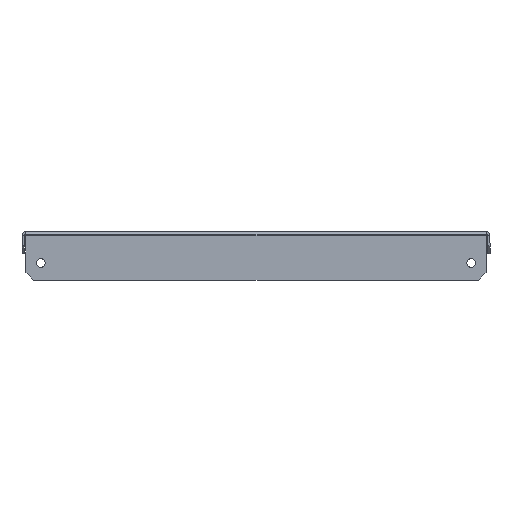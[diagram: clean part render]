
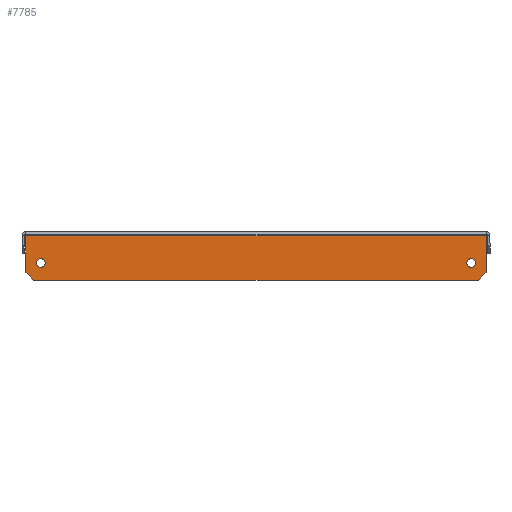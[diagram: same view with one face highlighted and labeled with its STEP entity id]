
A CAD part, left-side view. The second image highlights one B-rep face of the part: STEP entity #7785.
In plain terms, the highlighted planar face has unit normal (-1, 0, 0).
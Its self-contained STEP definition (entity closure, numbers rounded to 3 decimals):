
#72 = LINE ( 'NONE', #20910, #7131 ) ;
#83 = CARTESIAN_POINT ( 'NONE',  ( -348.5, 86.5, -86.5 ) ) ;
#103 = EDGE_LOOP ( 'NONE', ( #13025, #3739, #19514, #13967, #6413, #12979 ) ) ;
#331 = VERTEX_POINT ( 'NONE', #975 ) ;
#628 = CARTESIAN_POINT ( 'NONE',  ( -348.5, 0., 0. ) ) ;
#693 = VECTOR ( 'NONE', #18080, 1000. ) ;
#727 = VECTOR ( 'NONE', #6653, 1000. ) ;
#940 = VECTOR ( 'NONE', #16461, 1000. ) ;
#975 = CARTESIAN_POINT ( 'NONE',  ( -348.5, 147., -2.5 ) ) ;
#1573 = CARTESIAN_POINT ( 'NONE',  ( -348.5, 147., -26. ) ) ;
#1625 = EDGE_CURVE ( 'NONE', #15139, #20688, #10007, .T. ) ;
#2451 = DIRECTION ( 'NONE',  ( 0., -0.707, 0.707 ) ) ;
#2622 = CARTESIAN_POINT ( 'NONE',  ( -348.5, 137.5, -17.25 ) ) ;
#3500 = ORIENTED_EDGE ( 'NONE', *, *, #19885, .T. ) ;
#3501 = EDGE_LOOP ( 'NONE', ( #19144 ) ) ;
#3688 = LINE ( 'NONE', #83, #693 ) ;
#3739 = ORIENTED_EDGE ( 'NONE', *, *, #5017, .T. ) ;
#4007 = PLANE ( 'NONE',  #17837 ) ;
#4046 = LINE ( 'NONE', #16954, #7806 ) ;
#4096 = DIRECTION ( 'NONE',  ( 0., 0., 1. ) ) ;
#4249 = VERTEX_POINT ( 'NONE', #1573 ) ;
#4518 = VERTEX_POINT ( 'NONE', #19625 ) ;
#5017 = EDGE_CURVE ( 'NONE', #4249, #4518, #3688, .T. ) ;
#6413 = ORIENTED_EDGE ( 'NONE', *, *, #1625, .F. ) ;
#6653 = DIRECTION ( 'NONE',  ( 0., 1., 0. ) ) ;
#6854 = CARTESIAN_POINT ( 'NONE',  ( -348.5, -147., -31. ) ) ;
#7075 = CARTESIAN_POINT ( 'NONE',  ( -348.5, -137.5, -20. ) ) ;
#7091 = DIRECTION ( 'NONE',  ( -1., 0., 0. ) ) ;
#7131 = VECTOR ( 'NONE', #11293, 1000. ) ;
#7274 = DIRECTION ( 'NONE',  ( 0., 0., 1. ) ) ;
#7785 = ADVANCED_FACE ( 'NONE', ( #16809, #9172, #12152 ), #4007, .T. ) ;
#7806 = VECTOR ( 'NONE', #2451, 1000. ) ;
#8643 = DIRECTION ( 'NONE',  ( 1., 0., 0. ) ) ;
#8792 = CARTESIAN_POINT ( 'NONE',  ( -348.5, -147., -2.5 ) ) ;
#8875 = VERTEX_POINT ( 'NONE', #15334 ) ;
#9042 = EDGE_LOOP ( 'NONE', ( #3500 ) ) ;
#9172 = FACE_BOUND ( 'NONE', #3501, .T. ) ;
#9280 = CARTESIAN_POINT ( 'NONE',  ( -348.5, -142., -31. ) ) ;
#9711 = CARTESIAN_POINT ( 'NONE',  ( -348.5, 147., -31. ) ) ;
#10007 = LINE ( 'NONE', #6854, #940 ) ;
#10733 = EDGE_CURVE ( 'NONE', #15139, #331, #72, .T. ) ;
#11293 = DIRECTION ( 'NONE',  ( 0., 1., 0. ) ) ;
#11381 = EDGE_CURVE ( 'NONE', #15263, #20688, #4046, .T. ) ;
#11992 = EDGE_CURVE ( 'NONE', #15263, #4518, #19647, .T. ) ;
#12152 = FACE_OUTER_BOUND ( 'NONE', #103, .T. ) ;
#12319 = VECTOR ( 'NONE', #7274, 1000. ) ;
#12758 = DIRECTION ( 'NONE',  ( 0., 0., 1. ) ) ;
#12979 = ORIENTED_EDGE ( 'NONE', *, *, #10733, .T. ) ;
#13025 = ORIENTED_EDGE ( 'NONE', *, *, #15490, .F. ) ;
#13047 = CARTESIAN_POINT ( 'NONE',  ( -348.5, -147., -26. ) ) ;
#13093 = AXIS2_PLACEMENT_3D ( 'NONE', #19199, #20575, #12758 ) ;
#13967 = ORIENTED_EDGE ( 'NONE', *, *, #11381, .T. ) ;
#15139 = VERTEX_POINT ( 'NONE', #8792 ) ;
#15263 = VERTEX_POINT ( 'NONE', #9280 ) ;
#15334 = CARTESIAN_POINT ( 'NONE',  ( -348.5, -137.5, -17.25 ) ) ;
#15490 = EDGE_CURVE ( 'NONE', #4249, #331, #16791, .T. ) ;
#15774 = CIRCLE ( 'NONE', #18487, 2.75 ) ;
#16461 = DIRECTION ( 'NONE',  ( 0., 0., -1. ) ) ;
#16791 = LINE ( 'NONE', #19852, #12319 ) ;
#16809 = FACE_BOUND ( 'NONE', #9042, .T. ) ;
#16954 = CARTESIAN_POINT ( 'NONE',  ( -348.5, -86.5, -86.5 ) ) ;
#17837 = AXIS2_PLACEMENT_3D ( 'NONE', #628, #7091, #20280 ) ;
#18080 = DIRECTION ( 'NONE',  ( 0., -0.707, -0.707 ) ) ;
#18487 = AXIS2_PLACEMENT_3D ( 'NONE', #7075, #8643, #4096 ) ;
#18810 = VERTEX_POINT ( 'NONE', #2622 ) ;
#18890 = EDGE_CURVE ( 'NONE', #18810, #18810, #19840, .T. ) ;
#19144 = ORIENTED_EDGE ( 'NONE', *, *, #18890, .F. ) ;
#19199 = CARTESIAN_POINT ( 'NONE',  ( -348.5, 137.5, -20. ) ) ;
#19514 = ORIENTED_EDGE ( 'NONE', *, *, #11992, .F. ) ;
#19625 = CARTESIAN_POINT ( 'NONE',  ( -348.5, 142., -31. ) ) ;
#19647 = LINE ( 'NONE', #9711, #727 ) ;
#19840 = CIRCLE ( 'NONE', #13093, 2.75 ) ;
#19852 = CARTESIAN_POINT ( 'NONE',  ( -348.5, 147., -1.5 ) ) ;
#19885 = EDGE_CURVE ( 'NONE', #8875, #8875, #15774, .T. ) ;
#20280 = DIRECTION ( 'NONE',  ( 0., 0., 1. ) ) ;
#20575 = DIRECTION ( 'NONE',  ( -1., 0., 0. ) ) ;
#20688 = VERTEX_POINT ( 'NONE', #13047 ) ;
#20910 = CARTESIAN_POINT ( 'NONE',  ( -348.5, 0., -2.5 ) ) ;
